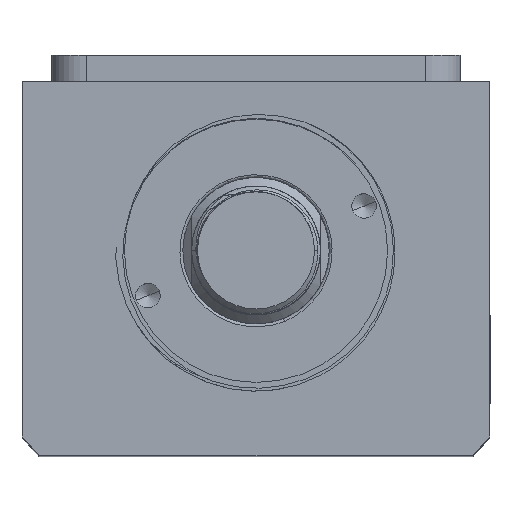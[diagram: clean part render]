
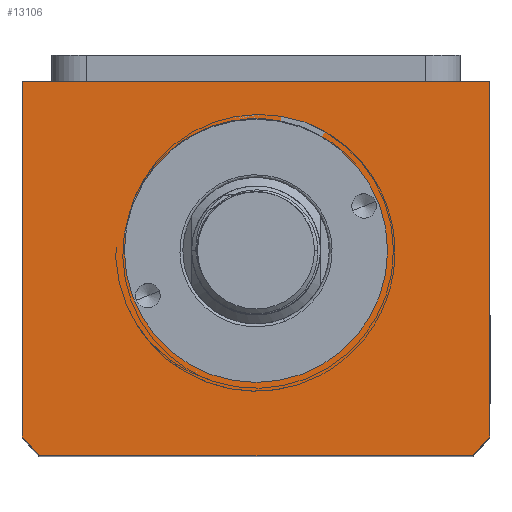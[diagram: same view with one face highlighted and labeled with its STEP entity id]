
A CAD part, top view. The second image highlights one B-rep face of the part: STEP entity #13106.
In plain terms, the highlighted planar face has unit normal (0, 0, 1).
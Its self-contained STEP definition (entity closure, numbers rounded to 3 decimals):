
#114 = LINE ( 'NONE', #2788, #8394 ) ;
#423 = VECTOR ( 'NONE', #5344, 1000. ) ;
#661 = EDGE_CURVE ( 'NONE', #11434, #13360, #9717, .T. ) ;
#860 = EDGE_CURVE ( 'NONE', #9806, #10985, #6172, .T. ) ;
#1019 = AXIS2_PLACEMENT_3D ( 'NONE', #2314, #9852, #3396 ) ;
#1169 = DIRECTION ( 'NONE',  ( 0., 0., 1. ) ) ;
#1413 = DIRECTION ( 'NONE',  ( -1., 0., 0. ) ) ;
#1759 = CARTESIAN_POINT ( 'NONE',  ( 40., 32., 130. ) ) ;
#1858 = ORIENTED_EDGE ( 'NONE', *, *, #2383, .T. ) ;
#2086 = DIRECTION ( 'NONE',  ( 1., 0., 0. ) ) ;
#2261 = CARTESIAN_POINT ( 'NONE',  ( -22.5, 3., 130. ) ) ;
#2314 = CARTESIAN_POINT ( 'NONE',  ( 0., 3., 130. ) ) ;
#2354 = VECTOR ( 'NONE', #8203, 1000. ) ;
#2383 = EDGE_CURVE ( 'NONE', #7364, #8060, #2424, .T. ) ;
#2424 = CIRCLE ( 'NONE', #9136, 51. ) ;
#2532 = CARTESIAN_POINT ( 'NONE',  ( 22.5, 3., 130. ) ) ;
#2580 = AXIS2_PLACEMENT_3D ( 'NONE', #11173, #11976, #2086 ) ;
#2788 = CARTESIAN_POINT ( 'NONE',  ( -40., -32., 130. ) ) ;
#2901 = ORIENTED_EDGE ( 'NONE', *, *, #7461, .T. ) ;
#2929 = AXIS2_PLACEMENT_3D ( 'NONE', #11431, #5004, #12493 ) ;
#3165 = CARTESIAN_POINT ( 'NONE',  ( -40., 32., 130. ) ) ;
#3341 = LINE ( 'NONE', #3583, #8410 ) ;
#3396 = DIRECTION ( 'NONE',  ( 1., 0., 0. ) ) ;
#3583 = CARTESIAN_POINT ( 'NONE',  ( -40., 32., 130. ) ) ;
#4015 = DIRECTION ( 'NONE',  ( 0., 0., 1. ) ) ;
#5004 = DIRECTION ( 'NONE',  ( 0., 0., 1. ) ) ;
#5344 = DIRECTION ( 'NONE',  ( 0., -1., 0. ) ) ;
#5367 = VERTEX_POINT ( 'NONE', #10474 ) ;
#5947 = CARTESIAN_POINT ( 'NONE',  ( -40., -28.639, 130. ) ) ;
#6139 = EDGE_LOOP ( 'NONE', ( #8972, #8303 ) ) ;
#6172 = LINE ( 'NONE', #3165, #423 ) ;
#6455 = CARTESIAN_POINT ( 'NONE',  ( 40., 32., 130. ) ) ;
#6845 = EDGE_LOOP ( 'NONE', ( #11794, #2901, #8253, #1858, #12592, #9094 ) ) ;
#7080 = EDGE_CURVE ( 'NONE', #13360, #11434, #13231, .T. ) ;
#7220 = CARTESIAN_POINT ( 'NONE',  ( 0., 0., 130. ) ) ;
#7364 = VERTEX_POINT ( 'NONE', #11043 ) ;
#7461 = EDGE_CURVE ( 'NONE', #10985, #5367, #13744, .T. ) ;
#7627 = CARTESIAN_POINT ( 'NONE',  ( 0., 3., 130. ) ) ;
#8060 = VERTEX_POINT ( 'NONE', #11420 ) ;
#8091 = LINE ( 'NONE', #1759, #2354 ) ;
#8203 = DIRECTION ( 'NONE',  ( 0., 1., 0. ) ) ;
#8253 = ORIENTED_EDGE ( 'NONE', *, *, #9524, .T. ) ;
#8303 = ORIENTED_EDGE ( 'NONE', *, *, #7080, .F. ) ;
#8394 = VECTOR ( 'NONE', #10312, 1000. ) ;
#8410 = VECTOR ( 'NONE', #1413, 1000. ) ;
#8442 = FACE_OUTER_BOUND ( 'NONE', #6845, .T. ) ;
#8454 = EDGE_CURVE ( 'NONE', #11233, #9806, #3341, .T. ) ;
#8715 = DIRECTION ( 'NONE',  ( 1., 0., 0. ) ) ;
#8972 = ORIENTED_EDGE ( 'NONE', *, *, #661, .F. ) ;
#9094 = ORIENTED_EDGE ( 'NONE', *, *, #8454, .T. ) ;
#9136 = AXIS2_PLACEMENT_3D ( 'NONE', #7627, #1169, #8715 ) ;
#9524 = EDGE_CURVE ( 'NONE', #5367, #7364, #114, .T. ) ;
#9717 = CIRCLE ( 'NONE', #2580, 22.5 ) ;
#9806 = VERTEX_POINT ( 'NONE', #12779 ) ;
#9852 = DIRECTION ( 'NONE',  ( 0., 0., 1. ) ) ;
#10312 = DIRECTION ( 'NONE',  ( 1., 0., 0. ) ) ;
#10460 = PLANE ( 'NONE',  #11090 ) ;
#10474 = CARTESIAN_POINT ( 'NONE',  ( -37.094, -32., 130. ) ) ;
#10620 = FACE_BOUND ( 'NONE', #6139, .T. ) ;
#10985 = VERTEX_POINT ( 'NONE', #5947 ) ;
#11043 = CARTESIAN_POINT ( 'NONE',  ( 37.094, -32., 130. ) ) ;
#11090 = AXIS2_PLACEMENT_3D ( 'NONE', #7220, #4015, #11529 ) ;
#11173 = CARTESIAN_POINT ( 'NONE',  ( 0., 3., 130. ) ) ;
#11233 = VERTEX_POINT ( 'NONE', #6455 ) ;
#11420 = CARTESIAN_POINT ( 'NONE',  ( 40., -28.639, 130. ) ) ;
#11431 = CARTESIAN_POINT ( 'NONE',  ( 0., 3., 130. ) ) ;
#11434 = VERTEX_POINT ( 'NONE', #2532 ) ;
#11529 = DIRECTION ( 'NONE',  ( 1., 0., 0. ) ) ;
#11794 = ORIENTED_EDGE ( 'NONE', *, *, #860, .T. ) ;
#11976 = DIRECTION ( 'NONE',  ( 0., 0., 1. ) ) ;
#12493 = DIRECTION ( 'NONE',  ( 1., 0., 0. ) ) ;
#12592 = ORIENTED_EDGE ( 'NONE', *, *, #13083, .T. ) ;
#12779 = CARTESIAN_POINT ( 'NONE',  ( -40., 32., 130. ) ) ;
#13083 = EDGE_CURVE ( 'NONE', #8060, #11233, #8091, .T. ) ;
#13106 = ADVANCED_FACE ( 'NONE', ( #10620, #8442 ), #10460, .T. ) ;
#13231 = CIRCLE ( 'NONE', #1019, 22.5 ) ;
#13360 = VERTEX_POINT ( 'NONE', #2261 ) ;
#13744 = CIRCLE ( 'NONE', #2929, 51. ) ;
